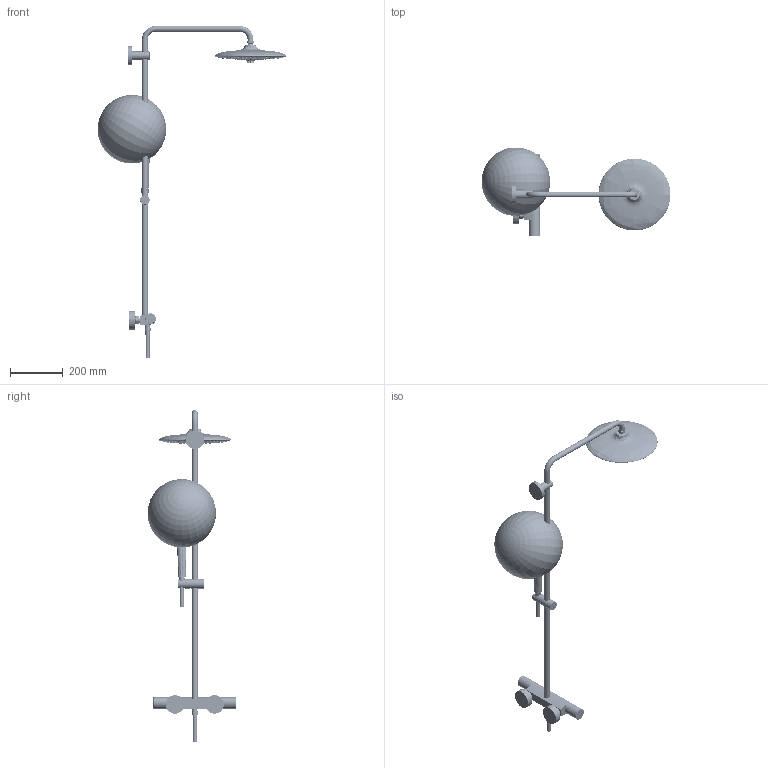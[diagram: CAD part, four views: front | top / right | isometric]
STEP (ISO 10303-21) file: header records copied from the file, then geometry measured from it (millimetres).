
FILE_DESCRIPTION(/* description */ ('Unknown'),/* implementation_level */ '2;1');
FILE_NAME(/* name */ '27615002',/* time_stamp */ '2022-08-26T12:10:53+02:00',/* author */ ('Unknown'),/* organization */ ('GROHE AG'),/* preprocessor_version */ 'ST-DEVELOPER v16.7',/* originating_system */ 'DEX',/* authorisation */ $);
FILE_SCHEMA (('AUTOMOTIVE_DESIGN {1 0 10303 214 3 1 1}'));
Products named in the file (41): 27615002; 27615002_0; 27615002_1; 27615002_2; g01806A88795qqn0; caps; 27615002_3; 27615002_4; G0181BC40660ln5y; G0181F9CAB557vxb; 27615002_5; 27615002_6; face1; 071012_FamilyHSH_D_Jets5L_Lob; 071108_Family_HSH_FaceEco_E_Lob; 27615002_7; 27615002_8; 27615002_9; 27615002_10; 27615002_11; 27615002_12; 27615002_13; 27615002_14; 27615002_15; 27615002_16; 27615002_17; 27615002_18; 081107 GTM1000C Handles Update02; 081107 GTM1000C Handles Update02_0; 27615002_19; 27615002_20; 27615002_21; 27615002_22; 27615002_23; 27615002_24; 27615002_25; 27615002_26; 27615002_27; 27615002_28; 27615002_29
Assembly tree (40 placements, depth 2):
  27615002
    27615002
    27615002_0
    27615002_1
    27615002_2
    g01806A88795qqn0
    caps
    27615002_3
    27615002_4
    G0181BC40660ln5y
    G0181F9CAB557vxb
    27615002_5
    27615002_6
    face1
    071012_FamilyHSH_D_Jets5L_Lob
    071108_Family_HSH_FaceEco_E_Lob
    27615002_7
    27615002_8
    27615002_9
    27615002_10
    27615002_11
    27615002_12
    27615002_13
    27615002_14
    27615002_15
    27615002_16
    27615002_17
    27615002_18
    081107 GTM1000C Handles Update02
    081107 GTM1000C Handles Update02_0
    27615002_19
    27615002_20
    27615002_21
    27615002_22
    27615002_23
    27615002_24
    27615002_25
    27615002_26
    27615002_27
    27615002_28
    27615002_29
Bounding box: 715.14 x 334.84 x 1258.13 mm (x, y, z)
Volume: 11430364.4 mm3; surface area: 1131712.8 mm2
Topology: 40 solids, 41 shells, 10850 faces, 30585 edges, 19533 vertices
Faces by surface type: bspline 5604, plane 2455, cylinder 848, torus 813, cone 701, sphere 429
Full cylindrical faces by diameter (mm): 1.4 x3, 2.5 x2, 3 x108, 3.5 x18, 4 x16, 4.2 x1, 4.5 x18, 6 x1, 12.35 x1, 12.4 x1, 12.55 x1, 13.5 x1, 15 x3, 15.6 x1, 16 x1, 17.5 x2, 18 x2, 18.2 x1, 18.4 x1, 18.455 x1, 18.5 x1, 18.63 x1, 18.631 x1, 18.7 x4, 18.8 x1, 19.9 x1, 20 x4, 20.5 x2, 20.9 x4, 20.96 x1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
Entity records: 647212 total; most frequent: CARTESIAN_POINT 429678, ORIENTED_EDGE 53894, EDGE_CURVE 26947, DIRECTION 26842, VERTEX_POINT 18156, B_SPLINE_CURVE_WITH_KNOTS 17425, FACE_BOUND 13473, EDGE_LOOP 13467
